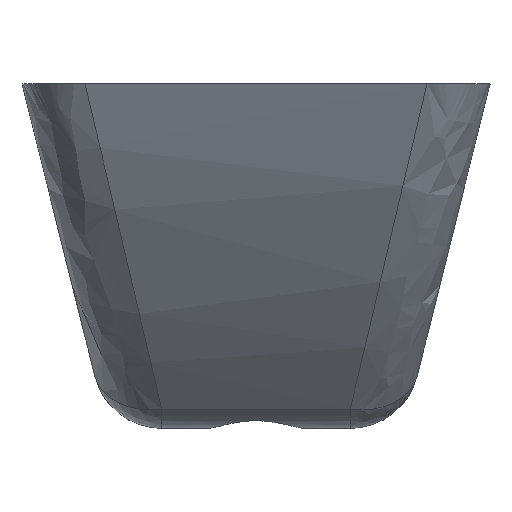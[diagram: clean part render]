
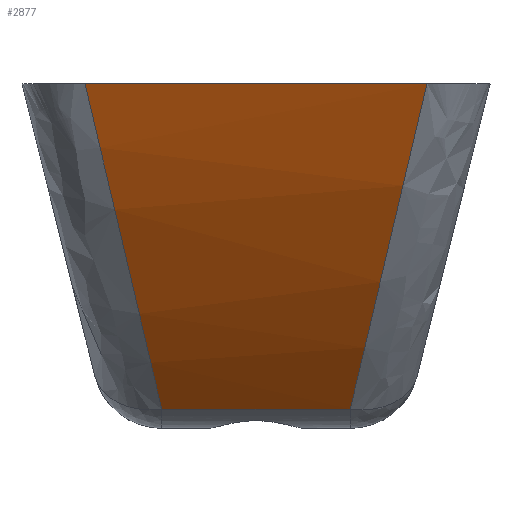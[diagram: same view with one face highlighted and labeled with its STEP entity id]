
A CAD part, top view. The second image highlights one B-rep face of the part: STEP entity #2877.
In plain terms, the highlighted cylindrical face has radius 181.659 mm (diameter 363.318 mm), a partial arc.
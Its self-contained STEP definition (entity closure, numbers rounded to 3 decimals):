
#92=ELLIPSE('',#3199,186.659,181.659);
#93=ELLIPSE('',#3200,186.659,181.659);
#136=CYLINDRICAL_SURFACE('',#3198,181.659);
#240=LINE('',#6415,#436);
#325=LINE('',#6701,#521);
#436=VECTOR('',#3702,10.);
#521=VECTOR('',#3959,10.);
#774=FACE_OUTER_BOUND('',#948,.T.);
#948=EDGE_LOOP('',(#2612,#2613,#2614,#2615));
#1277=VERTEX_POINT('',#6218);
#1279=VERTEX_POINT('',#6223);
#1295=VERTEX_POINT('',#6401);
#1296=VERTEX_POINT('',#6414);
#1653=EDGE_CURVE('',#1296,#1295,#240,.T.);
#1777=EDGE_CURVE('',#1277,#1279,#325,.T.);
#1787=EDGE_CURVE('',#1279,#1295,#92,.T.);
#1788=EDGE_CURVE('',#1296,#1277,#93,.T.);
#2612=ORIENTED_EDGE('',*,*,#1787,.F.);
#2613=ORIENTED_EDGE('',*,*,#1777,.F.);
#2614=ORIENTED_EDGE('',*,*,#1788,.F.);
#2615=ORIENTED_EDGE('',*,*,#1653,.T.);
#2877=ADVANCED_FACE('',(#774),#136,.T.);
#3198=AXIS2_PLACEMENT_3D('',#6722,#3992,#3993);
#3199=AXIS2_PLACEMENT_3D('',#6723,#3994,#3995);
#3200=AXIS2_PLACEMENT_3D('',#6724,#3996,#3997);
#3702=DIRECTION('',(-1.,0.,0.));
#3959=DIRECTION('',(-1.,0.,0.));
#3992=DIRECTION('center_axis',(1.,0.,0.));
#3993=DIRECTION('ref_axis',(0.,-0.739,0.674));
#3994=DIRECTION('center_axis',(-0.973,-0.23,0.));
#3995=DIRECTION('ref_axis',(0.23,-0.973,0.));
#3996=DIRECTION('center_axis',(0.973,-0.23,0.));
#3997=DIRECTION('ref_axis',(-0.23,-0.973,0.));
#6218=CARTESIAN_POINT('',(13.418,-407.239,17.047));
#6223=CARTESIAN_POINT('',(-13.966,-407.239,17.047));
#6401=CARTESIAN_POINT('',(-25.126,-360.,52.653));
#6414=CARTESIAN_POINT('',(24.578,-360.,52.653));
#6415=CARTESIAN_POINT('',(-41.774,-360.,52.653));
#6701=CARTESIAN_POINT('',(-41.774,-407.239,17.047));
#6722=CARTESIAN_POINT('Origin',(-41.774,-275.736,-108.281));
#6723=CARTESIAN_POINT('Origin',(-45.032,-275.736,-108.281));
#6724=CARTESIAN_POINT('Origin',(44.484,-275.736,-108.281));
